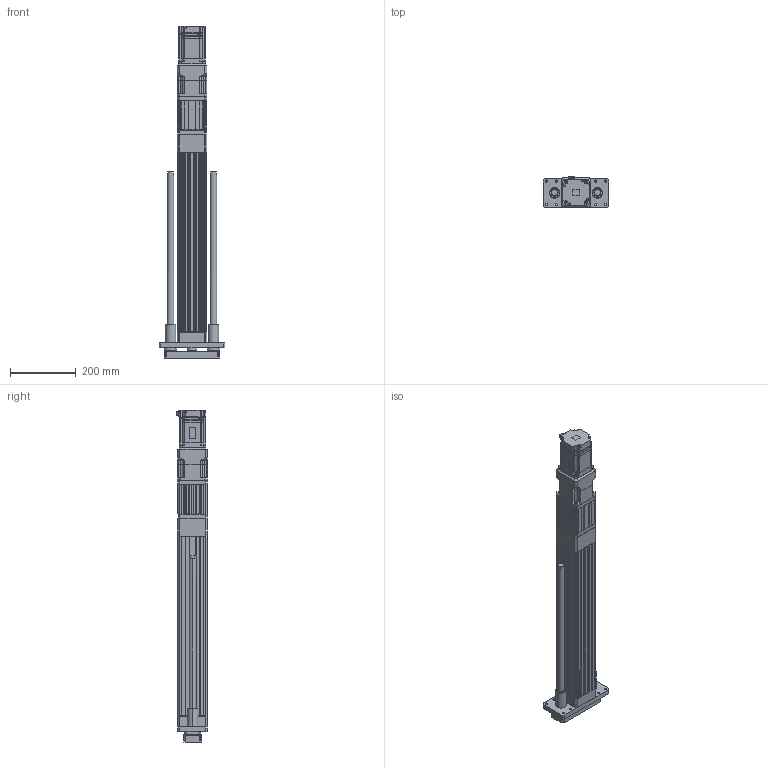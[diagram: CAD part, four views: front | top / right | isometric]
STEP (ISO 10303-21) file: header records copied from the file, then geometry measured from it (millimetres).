
FILE_DESCRIPTION (( 'STEP AP203' ), '1' );
FILE_NAME ('ANS090H-GS400-05(10)(25)-W75G05.STEP', '2019-03-18T02:07:12', ( 'user' ), ( '' ), 'SwSTEP 2.0', 'SolidWorks 2013', '' );
FILE_SCHEMA (( 'CONFIG_CONTROL_DESIGN' ));
Length unit declared in the file: millimetre
Products named in the file (5): ANS090H GS400 VER2; ANS090 ROD ST400-G; SGMJV_08A_A21; AB090-005-S1-P2[YASKAWA SGMJV08A]; ANS090H-GS400-05(10)(25)-W75G05
Assembly tree (4 placements, depth 2):
  ANS090H-GS400-05(10)(25)-W75G05
    ANS090H GS400 VER2
    ANS090 ROD ST400-G
    SGMJV_08A_A21
    AB090-005-S1-P2[YASKAWA SGMJV08A]
Bounding box: 200 x 93.8 x 1008.1 mm (x, y, z)
Volume: 4695100.5 mm3; surface area: 902890.7 mm2
Topology: 3 solids, 14 shells, 1903 faces, 5056 edges, 3262 vertices
Faces by surface type: plane 1124, cylinder 581, cone 182, bspline 12, torus 4
Entity records: 59660 total; most frequent: CARTESIAN_POINT 11290, ORIENTED_EDGE 9984, DIRECTION 9947, EDGE_CURVE 5036, VECTOR 3517, LINE 3517, VERTEX_POINT 3262, AXIS2_PLACEMENT_3D 3215
